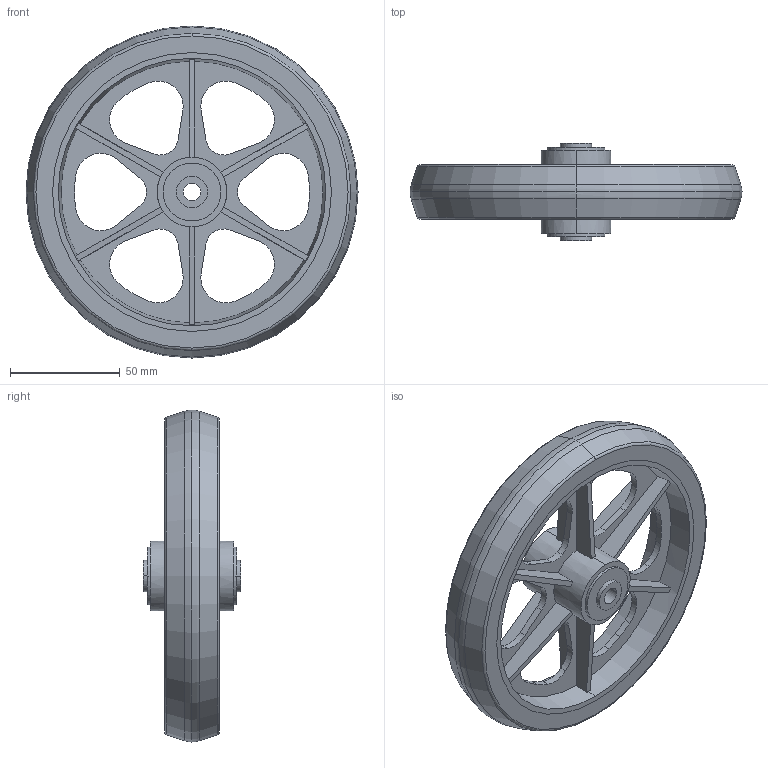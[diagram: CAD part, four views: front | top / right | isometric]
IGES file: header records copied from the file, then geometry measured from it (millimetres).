
Global section: file name: C:\Documents and Settings\Administrator\Desktop\Transfer Temp\wheelchairwheel6.igs; native system: AutoDesk Inventor R2.0 ; preprocessor: AutoDesk Inventor Iges Exporter R2.0; author: No Author specified; organization: No Organization specified; date: 20020113.130206; units: inch
Bounding box: 151.28 x 44.58 x 151.28 mm (x, y, z)
Surface area: 80679.2 mm2 (no closed solid volume)
Topology: 0 solids, 0 shells, 164 faces, 880 edges, 880 vertices
Faces by surface type: revolution 90, bspline 74
